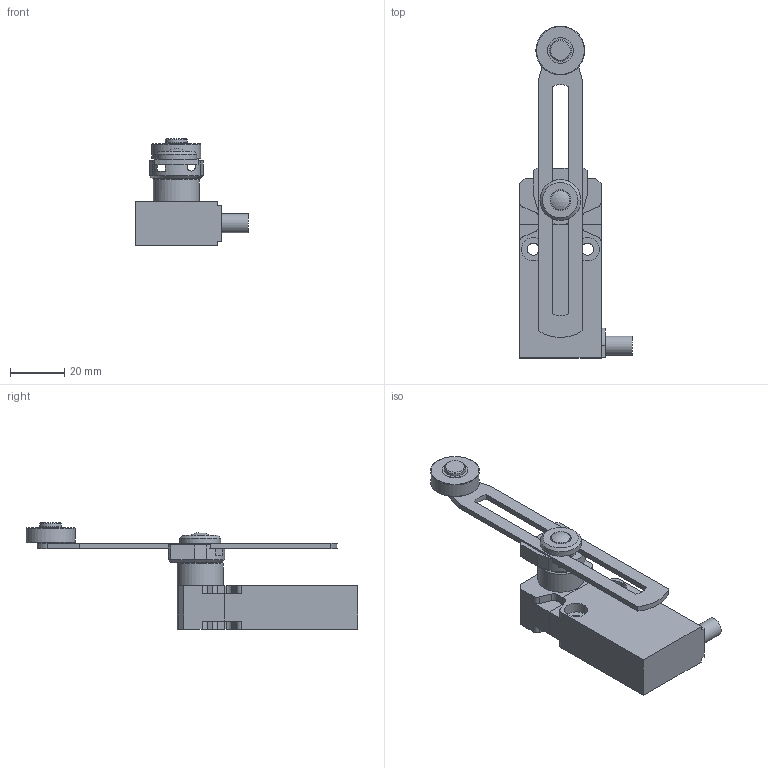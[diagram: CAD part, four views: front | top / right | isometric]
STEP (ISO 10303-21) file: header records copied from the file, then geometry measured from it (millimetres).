
FILE_DESCRIPTION(/* description */ (''),/* implementation_level */ '2;1');
FILE_NAME(/* name */ 'C:\Users\servizio.tecnico\Desktop\CADENAS\3D\EP1_STP\STP_EP1_G51U.stp',/* time_stamp */ '2017-09-01T08:35:46+02:00',/* author */ ('servizio.tecnico'),/* organization */ (''),/* preprocessor_version */ 'ST-DEVELOPER v16.1',/* originating_system */ 'Autodesk Inventor 2016',/* authorisation */ '');
FILE_SCHEMA (('AUTOMOTIVE_DESIGN { 1 0 10303 214 3 1 1 }'));
Length unit declared in the file: millimetre
Products named in the file (3): Product; EP1G51; BASE ASSI 
Assembly tree (2 placements, depth 3):
  BASE ASSI 
    EP1G51
      Product
Bounding box: 41.5 x 122 x 39.1 mm (x, y, z)
Volume: 37402.4 mm3; surface area: 15302.3 mm2
Topology: 5 solids, 5 shells, 168 faces, 412 edges, 271 vertices
Faces by surface type: plane 112, cylinder 49, torus 3, cone 3, sphere 1
Full cylindrical faces by diameter (mm): 4.4 x2, 6 x2, 7 x2, 7.6 x1, 8 x1, 8.7 x4, 9.5 x2, 11 x1, 15 x1, 17 x1, 18 x1
Entity records: 4947 total; most frequent: CARTESIAN_POINT 846, DIRECTION 840, ORIENTED_EDGE 772, EDGE_CURVE 386, AXIS2_PLACEMENT_3D 282, LINE 276, VECTOR 276, VERTEX_POINT 268
